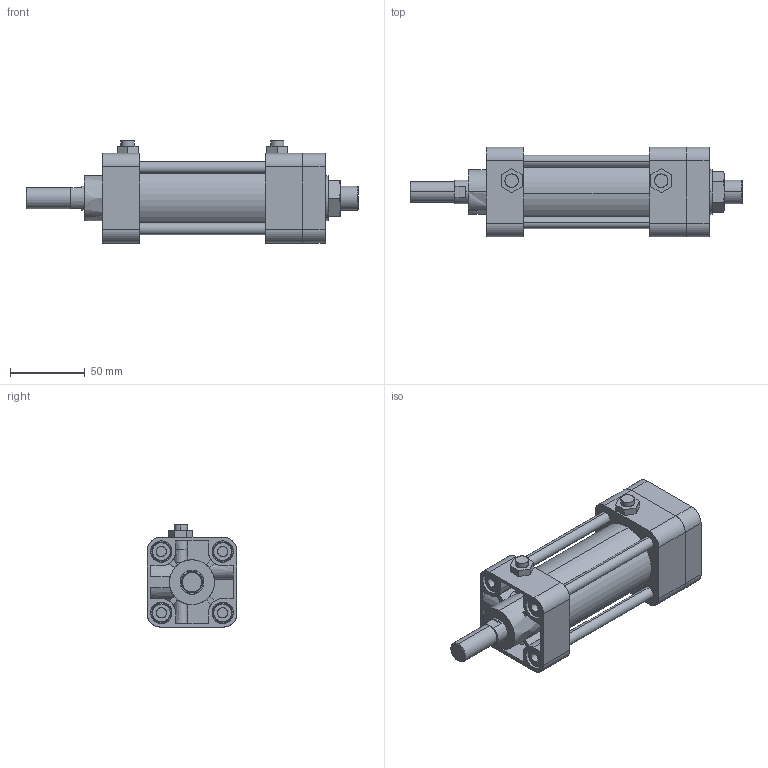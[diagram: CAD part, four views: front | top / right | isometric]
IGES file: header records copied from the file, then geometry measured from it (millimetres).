
Start section: SolidWorks IGES file using analytic representation for surfaces
Global section: file name: C:\Users\Toshiba\Desktop\KGA2-40#-50-N.IGS; native system: SolidWorks 2014; preprocessor: SolidWorks 2014; author: Toshiba; date: 160414.151234; units: millimetre
Bounding box: 222 x 60 x 68.3 mm (x, y, z)
Surface area: 97280.8 mm2 (no closed solid volume)
Topology: 0 solids, 0 shells, 398 faces, 5971 edges, 5937 vertices
Faces by surface type: revolution 204, bspline 194
